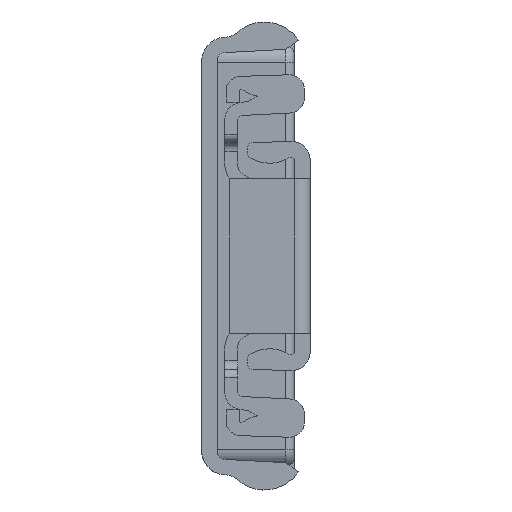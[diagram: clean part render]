
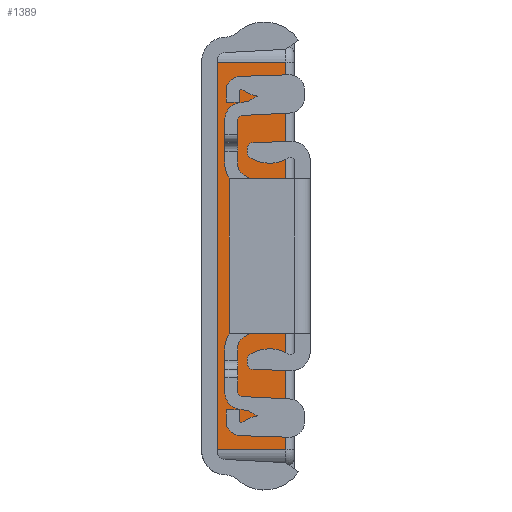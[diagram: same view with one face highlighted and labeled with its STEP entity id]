
A CAD part, front view. The second image highlights one B-rep face of the part: STEP entity #1389.
In plain terms, the highlighted planar face has unit normal (0, -1, 0).
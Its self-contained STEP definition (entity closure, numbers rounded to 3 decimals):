
#1389 = ADVANCED_FACE( 'NONE', ( #2881 ), #2882, .T. );
#2881 = FACE_OUTER_BOUND( '', #4444, .T. );
#2882 = PLANE( '', #4445 );
#4444 = EDGE_LOOP( '', ( #8644, #8645, #8646, #8647 ) );
#4445 = AXIS2_PLACEMENT_3D( '', #8648, #8649, #8650 );
#8644 = ORIENTED_EDGE( '', *, *, #10306, .F. );
#8645 = ORIENTED_EDGE( '', *, *, #11261, .T. );
#8646 = ORIENTED_EDGE( '', *, *, #11214, .T. );
#8647 = ORIENTED_EDGE( '', *, *, #9957, .T. );
#8648 = CARTESIAN_POINT( '', ( -4.959, -98.8, 8.082 ) );
#8649 = DIRECTION( '', ( 0., -1., 0. ) );
#8650 = DIRECTION( '', ( 0., 0., -1. ) );
#9957 = EDGE_CURVE( '', #12196, #12193, #12197, .F. );
#10306 = EDGE_CURVE( '', #12771, #12193, #12773, .T. );
#11214 = EDGE_CURVE( '', #14032, #12196, #14033, .T. );
#11261 = EDGE_CURVE( '', #12771, #14032, #14086, .T. );
#12193 = VERTEX_POINT( '', #15335 );
#12196 = VERTEX_POINT( '', #15338 );
#12197 = LINE( '', #15339, #15340 );
#12771 = VERTEX_POINT( '', #16124 );
#12773 = LINE( '', #16126, #16127 );
#14032 = VERTEX_POINT( '', #17863 );
#14033 = LINE( '', #17864, #17865 );
#14086 = LINE( '', #17938, #17939 );
#15335 = CARTESIAN_POINT( '', ( -22.64, -98.8, 1.2 ) );
#15338 = CARTESIAN_POINT( '', ( -22.64, -98.8, 9.2 ) );
#15339 = CARTESIAN_POINT( '', ( -22.64, -98.8, 8.082 ) );
#15340 = VECTOR( '', #18674, 1000. );
#16124 = CARTESIAN_POINT( '', ( 22.64, -98.8, 1.2 ) );
#16126 = CARTESIAN_POINT( '', ( 16.4, -98.8, 1.2 ) );
#16127 = VECTOR( '', #19170, 1000. );
#17863 = CARTESIAN_POINT( '', ( 22.64, -98.8, 9.2 ) );
#17864 = CARTESIAN_POINT( '', ( -4.959, -98.8, 9.2 ) );
#17865 = VECTOR( '', #20335, 1000. );
#17938 = CARTESIAN_POINT( '', ( 22.64, -98.8, 8.082 ) );
#17939 = VECTOR( '', #20374, 1000. );
#18674 = DIRECTION( '', ( 0., 0., 1. ) );
#19170 = DIRECTION( '', ( -1., 0., 0. ) );
#20335 = DIRECTION( '', ( -1., 0., 0. ) );
#20374 = DIRECTION( '', ( 0., 0., 1. ) );
